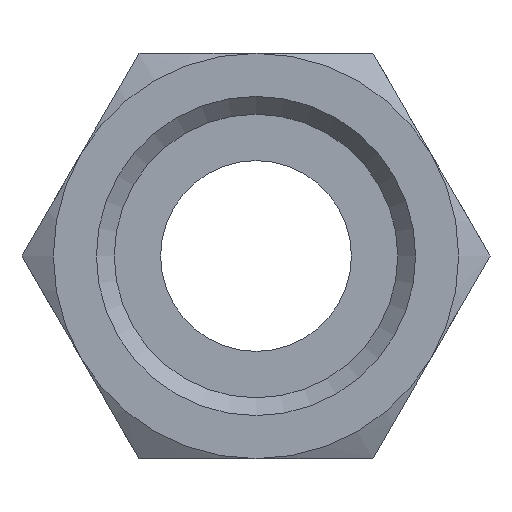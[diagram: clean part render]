
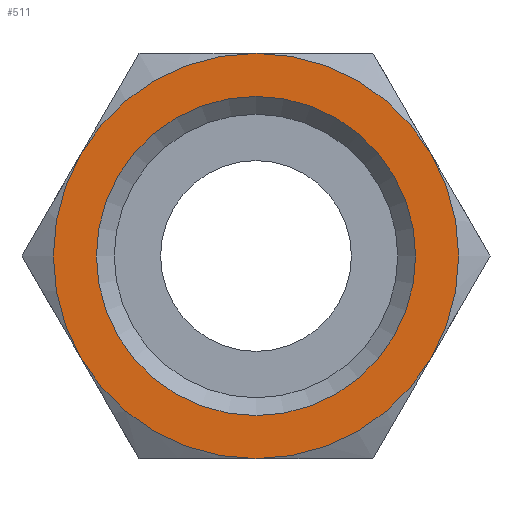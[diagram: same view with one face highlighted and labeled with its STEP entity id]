
A CAD part, front view. The second image highlights one B-rep face of the part: STEP entity #511.
In plain terms, the highlighted planar face has unit normal (0, -1, 0).
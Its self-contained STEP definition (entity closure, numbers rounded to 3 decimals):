
#39=FACE_BOUND('',#145,.T.);
#46=PLANE('',#573);
#110=FACE_OUTER_BOUND('',#144,.T.);
#144=EDGE_LOOP('',(#365,#366,#367,#368,#369,#370));
#145=EDGE_LOOP('',(#371));
#189=CIRCLE('',#572,6.695);
#190=CIRCLE('',#574,8.5);
#191=CIRCLE('',#575,8.5);
#192=CIRCLE('',#576,8.5);
#193=CIRCLE('',#577,8.5);
#194=CIRCLE('',#578,8.5);
#195=CIRCLE('',#579,8.5);
#228=VERTEX_POINT('',#818);
#229=VERTEX_POINT('',#822);
#230=VERTEX_POINT('',#823);
#231=VERTEX_POINT('',#825);
#232=VERTEX_POINT('',#827);
#233=VERTEX_POINT('',#829);
#234=VERTEX_POINT('',#831);
#282=EDGE_CURVE('',#228,#228,#189,.T.);
#283=EDGE_CURVE('',#229,#230,#190,.T.);
#284=EDGE_CURVE('',#230,#231,#191,.T.);
#285=EDGE_CURVE('',#231,#232,#192,.T.);
#286=EDGE_CURVE('',#232,#233,#193,.T.);
#287=EDGE_CURVE('',#233,#234,#194,.T.);
#288=EDGE_CURVE('',#234,#229,#195,.T.);
#365=ORIENTED_EDGE('',*,*,#283,.T.);
#366=ORIENTED_EDGE('',*,*,#284,.T.);
#367=ORIENTED_EDGE('',*,*,#285,.T.);
#368=ORIENTED_EDGE('',*,*,#286,.T.);
#369=ORIENTED_EDGE('',*,*,#287,.T.);
#370=ORIENTED_EDGE('',*,*,#288,.T.);
#371=ORIENTED_EDGE('',*,*,#282,.F.);
#511=ADVANCED_FACE('',(#110,#39),#46,.T.);
#572=AXIS2_PLACEMENT_3D('',#820,#660,#661);
#573=AXIS2_PLACEMENT_3D('',#821,#662,#663);
#574=AXIS2_PLACEMENT_3D('',#824,#664,#665);
#575=AXIS2_PLACEMENT_3D('',#826,#666,#667);
#576=AXIS2_PLACEMENT_3D('',#828,#668,#669);
#577=AXIS2_PLACEMENT_3D('',#830,#670,#671);
#578=AXIS2_PLACEMENT_3D('',#832,#672,#673);
#579=AXIS2_PLACEMENT_3D('',#833,#674,#675);
#660=DIRECTION('center_axis',(0.,-1.,0.));
#661=DIRECTION('ref_axis',(-1.,0.,0.));
#662=DIRECTION('center_axis',(0.,-1.,0.));
#663=DIRECTION('ref_axis',(0.,0.,-1.));
#664=DIRECTION('center_axis',(0.,-1.,0.));
#665=DIRECTION('ref_axis',(1.,0.,0.));
#666=DIRECTION('center_axis',(0.,-1.,0.));
#667=DIRECTION('ref_axis',(1.,0.,0.));
#668=DIRECTION('center_axis',(0.,-1.,0.));
#669=DIRECTION('ref_axis',(1.,0.,0.));
#670=DIRECTION('center_axis',(0.,-1.,0.));
#671=DIRECTION('ref_axis',(1.,0.,0.));
#672=DIRECTION('center_axis',(0.,-1.,0.));
#673=DIRECTION('ref_axis',(1.,0.,0.));
#674=DIRECTION('center_axis',(0.,-1.,0.));
#675=DIRECTION('ref_axis',(1.,0.,0.));
#818=CARTESIAN_POINT('',(6.695,0.,0.));
#820=CARTESIAN_POINT('Origin',(0.,0.,0.));
#821=CARTESIAN_POINT('Origin',(5.945,0.,0.));
#822=CARTESIAN_POINT('',(-7.361,0.,-4.25));
#823=CARTESIAN_POINT('',(0.,0.,-8.5));
#824=CARTESIAN_POINT('Origin',(0.,0.,0.));
#825=CARTESIAN_POINT('',(7.361,0.,-4.25));
#826=CARTESIAN_POINT('Origin',(0.,0.,0.));
#827=CARTESIAN_POINT('',(7.361,0.,4.25));
#828=CARTESIAN_POINT('Origin',(0.,0.,0.));
#829=CARTESIAN_POINT('',(0.,0.,8.5));
#830=CARTESIAN_POINT('Origin',(0.,0.,0.));
#831=CARTESIAN_POINT('',(-7.361,0.,4.25));
#832=CARTESIAN_POINT('Origin',(0.,0.,0.));
#833=CARTESIAN_POINT('Origin',(0.,0.,0.));
